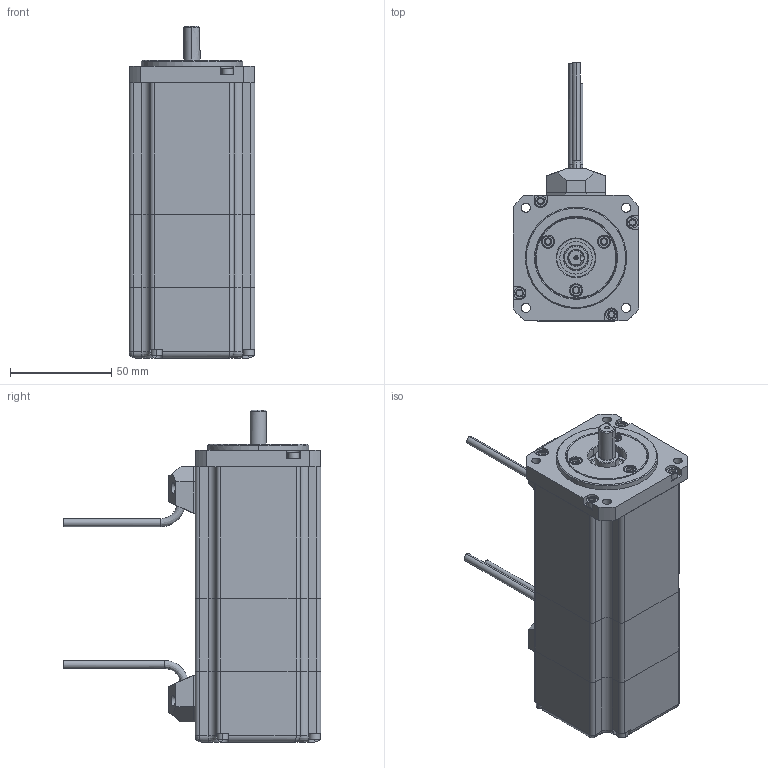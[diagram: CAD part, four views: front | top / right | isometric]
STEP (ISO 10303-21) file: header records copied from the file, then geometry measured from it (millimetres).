
FILE_DESCRIPTION( (''), '2;1');
FILE_NAME ('NCA30134-X2.stp','2018-12-04T14:46:51',(''),(''),'spGate 4.0','spGate 4.0','');
FILE_SCHEMA (('AUTOMOTIVE_DESIGN'));
Length unit declared in the file: millimetre
Products named in the file (37): Assembly; NCA30134-X2-prt0; NCA30134-X2-prt1; NCA30134-X2-prt2; NCA30134-X2-prt3; NCA30134-X2-prt4; NCA30134-X2-prt5; NCA30134-X2-prt6; NCA30134-X2-prt7; NCA30134-X2-prt8; NCA30134-X2-prt9; NCA30134-X2-prt10; NCA30134-X2-prt11; NCA30134-X2-prt12; NCA30134-X2-prt13; NCA30134-X2-prt14; NCA30134-X2-prt15; NCA30134-X2-prt16; NCA30134-X2-prt17; NCA30134-X2-prt18; NCA30134-X2-prt19; NCA30134-X2-prt20; NCA30134-X2-prt21; NCA30134-X2-prt22; NCA30134-X2-prt23; NCA30134-X2-prt24; NCA30134-X2-prt25; NCA30134-X2-prt26; NCA30134-X2-prt27; NCA30134-X2-prt28; NCA30134-X2-prt29; NCA30134-X2-prt30; NCA30134-X2-prt31; NCA30134-X2-prt32; NCA30134-X2-prt33; NCA30134-X2-prt34; NCA30134-X2-prt35
Assembly tree (36 placements, depth 2):
  Assembly
    NCA30134-X2-prt0
    NCA30134-X2-prt1
    NCA30134-X2-prt2
    NCA30134-X2-prt3
    NCA30134-X2-prt4
    NCA30134-X2-prt5
    NCA30134-X2-prt6
    NCA30134-X2-prt7
    NCA30134-X2-prt8
    NCA30134-X2-prt9
    NCA30134-X2-prt10
    NCA30134-X2-prt11
    NCA30134-X2-prt12
    NCA30134-X2-prt13
    NCA30134-X2-prt14
    NCA30134-X2-prt15
    NCA30134-X2-prt16
    NCA30134-X2-prt17
    NCA30134-X2-prt18
    NCA30134-X2-prt19
    NCA30134-X2-prt20
    NCA30134-X2-prt21
    NCA30134-X2-prt22
    NCA30134-X2-prt23
    NCA30134-X2-prt24
    NCA30134-X2-prt25
    NCA30134-X2-prt26
    NCA30134-X2-prt27
    NCA30134-X2-prt28
    NCA30134-X2-prt29
    NCA30134-X2-prt30
    NCA30134-X2-prt31
    NCA30134-X2-prt32
    NCA30134-X2-prt33
    NCA30134-X2-prt34
    NCA30134-X2-prt35
Bounding box: 62 x 127.35 x 164 mm (x, y, z)
Volume: 180304 mm3; surface area: 119353.7 mm2
Topology: 36 solids, 36 shells, 1246 faces, 3057 edges, 1950 vertices
Faces by surface type: plane 665, bspline 408, cylinder 165, sphere 8
Entity records: 66319 total; most frequent: CARTESIAN_POINT 14534, ORIENTED_EDGE 6082, DIRECTION 4625, COLOUR_RGB 4323, PRESENTATION_STYLE_ASSIGNMENT 4323, STYLED_ITEM 4323, EDGE_CURVE 3041, DRAUGHTING_PRE_DEFINED_CURVE_FONT 3041
